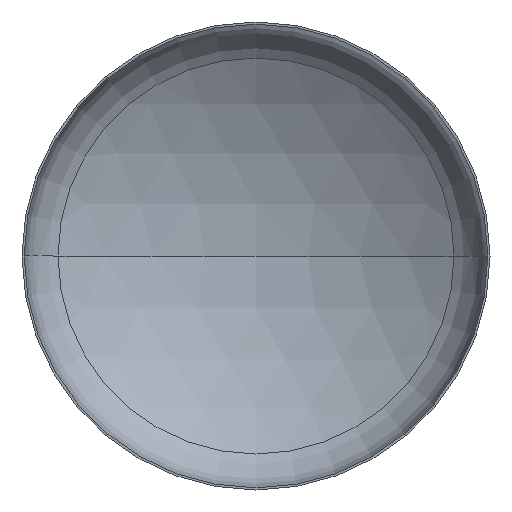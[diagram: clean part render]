
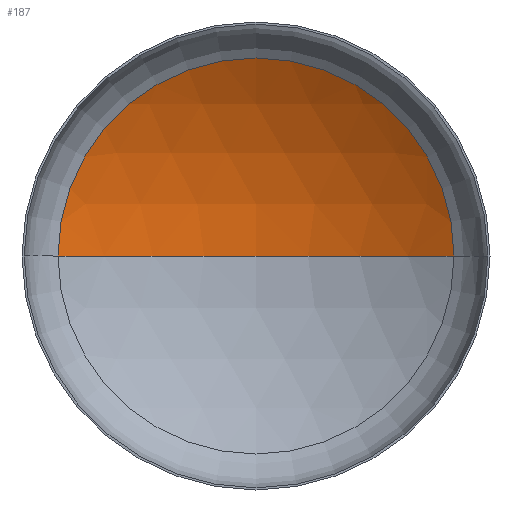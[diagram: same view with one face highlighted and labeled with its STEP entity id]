
A CAD part, front view. The second image highlights one B-rep face of the part: STEP entity #187.
In plain terms, the highlighted spherical face has radius 2400 mm.
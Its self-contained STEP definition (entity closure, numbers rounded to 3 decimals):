
#3 = ORIENTED_EDGE ( 'NONE', *, *, #261, .T. ) ;
#10 = ORIENTED_EDGE ( 'NONE', *, *, #267, .F. ) ;
#11 = EDGE_LOOP ( 'NONE', ( #10, #43, #3 ) ) ;
#22 = VERTEX_POINT ( 'NONE', #309 ) ;
#43 = ORIENTED_EDGE ( 'NONE', *, *, #266, .T. ) ;
#99 = VERTEX_POINT ( 'NONE', #231 ) ;
#100 = CIRCLE ( 'NONE', #134, 2400. ) ;
#104 = VERTEX_POINT ( 'NONE', #306 ) ;
#134 = AXIS2_PLACEMENT_3D ( 'NONE', #289, #288, #238 ) ;
#136 = AXIS2_PLACEMENT_3D ( 'NONE', #209, #269, #263 ) ;
#143 = AXIS2_PLACEMENT_3D ( 'NONE', #180, #189, #195 ) ;
#152 = SPHERICAL_SURFACE ( 'NONE', #208, 2400. ) ;
#180 = CARTESIAN_POINT ( 'NONE',  ( 0., 435.404, 0. ) ) ;
#187 = ADVANCED_FACE ( 'NONE', ( #410 ), #152, .F. ) ;
#189 = DIRECTION ( 'NONE',  ( 0., -1., 0. ) ) ;
#195 = DIRECTION ( 'NONE',  ( 1., 0., 0. ) ) ;
#208 = AXIS2_PLACEMENT_3D ( 'NONE', #331, #333, #328 ) ;
#209 = CARTESIAN_POINT ( 'NONE',  ( 0., -1601.488, 0. ) ) ;
#231 = CARTESIAN_POINT ( 'NONE',  ( -1269.278, 435.404, 0. ) ) ;
#238 = DIRECTION ( 'NONE',  ( 1., 0., 0. ) ) ;
#261 = EDGE_CURVE ( 'NONE', #22, #99, #329, .T. ) ;
#263 = DIRECTION ( 'NONE',  ( -1., 0., 0. ) ) ;
#266 = EDGE_CURVE ( 'NONE', #104, #22, #271, .T. ) ;
#267 = EDGE_CURVE ( 'NONE', #104, #99, #100, .T. ) ;
#269 = DIRECTION ( 'NONE',  ( 0., 0., -1. ) ) ;
#271 = CIRCLE ( 'NONE', #136, 2400. ) ;
#288 = DIRECTION ( 'NONE',  ( 0., 0., 1. ) ) ;
#289 = CARTESIAN_POINT ( 'NONE',  ( 0., -1601.488, 0. ) ) ;
#306 = CARTESIAN_POINT ( 'NONE',  ( 0., 798.512, 0. ) ) ;
#309 = CARTESIAN_POINT ( 'NONE',  ( 1269.278, 435.404, 0. ) ) ;
#328 = DIRECTION ( 'NONE',  ( -1., 0., 0. ) ) ;
#329 = CIRCLE ( 'NONE', #143, 1269.278 ) ;
#331 = CARTESIAN_POINT ( 'NONE',  ( 0., -1601.488, 0. ) ) ;
#333 = DIRECTION ( 'NONE',  ( 0., 0., -1. ) ) ;
#410 = FACE_OUTER_BOUND ( 'NONE', #11, .T. ) ;
